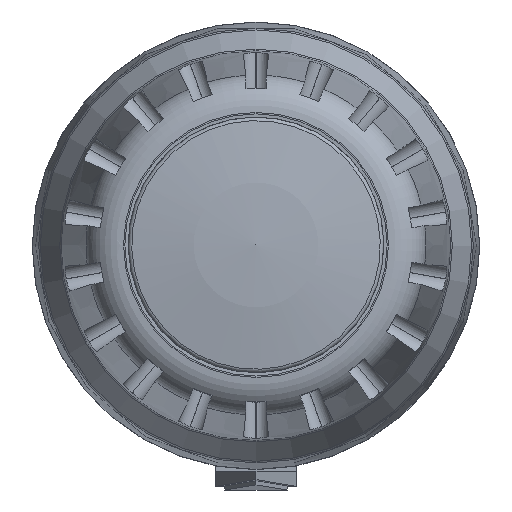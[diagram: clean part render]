
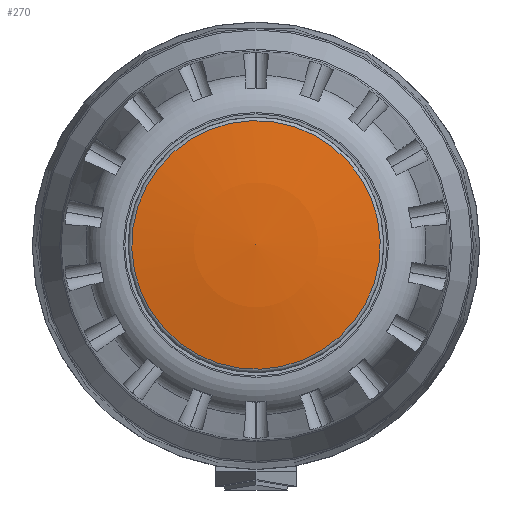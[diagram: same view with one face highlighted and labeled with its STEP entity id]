
A CAD part, top view. The second image highlights one B-rep face of the part: STEP entity #270.
In plain terms, the highlighted spherical face has radius 90.685 mm.
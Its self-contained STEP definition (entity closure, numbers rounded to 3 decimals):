
#270=ADVANCED_FACE('',(#1956),#1958,.T.);
#1956=FACE_OUTER_BOUND('',#1957,.T.);
#1957=EDGE_LOOP('',(#3691));
#1958=SPHERICAL_SURFACE('',#1959,90.685);
#1959=AXIS2_PLACEMENT_3D('',#1960,#1961,#1962);
#1960=CARTESIAN_POINT('',(0.,0.,-28.885));
#1961=DIRECTION('',(0.,0.,-1.));
#1962=DIRECTION('',(-0.999,-0.034,0.));
#3691=ORIENTED_EDGE('',*,*,#4603,.F.);
#4603=EDGE_CURVE('',#5782,#5782,#5783,.T.);
#5782=VERTEX_POINT('',#11474);
#5783=CIRCLE('',#11475,14.882);
#11474=CARTESIAN_POINT('',(-14.874,-0.502,60.571));
#11475=AXIS2_PLACEMENT_3D('',#11476,#11477,#11478);
#11476=CARTESIAN_POINT('',(0.,0.,60.571));
#11477=DIRECTION('',(0.,0.,-1.));
#11478=DIRECTION('',(-0.999,-0.034,0.));
